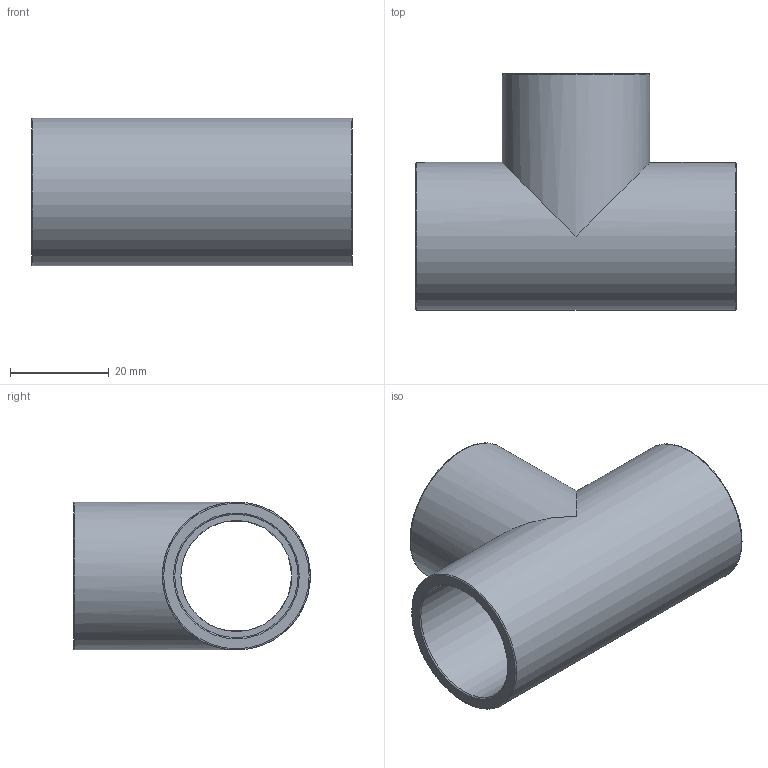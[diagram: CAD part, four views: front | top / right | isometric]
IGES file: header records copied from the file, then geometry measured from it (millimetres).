
Global section: file name: 050400025.ipt; native system: Autodesk Inventor 2015; preprocessor: unknown; author: KIM; date: 20171207.164430; units: millimetre
Bounding box: 65 x 48 x 30 mm (x, y, z)
Volume: 19780.3 mm3; surface area: 14670.8 mm2
Topology: 1 solids, 1 shells, 19 faces, 60 edges, 46 vertices
Faces by surface type: revolution 11, plane 6, cylinder 2
Full cylindrical faces by diameter (mm): 30 x2
